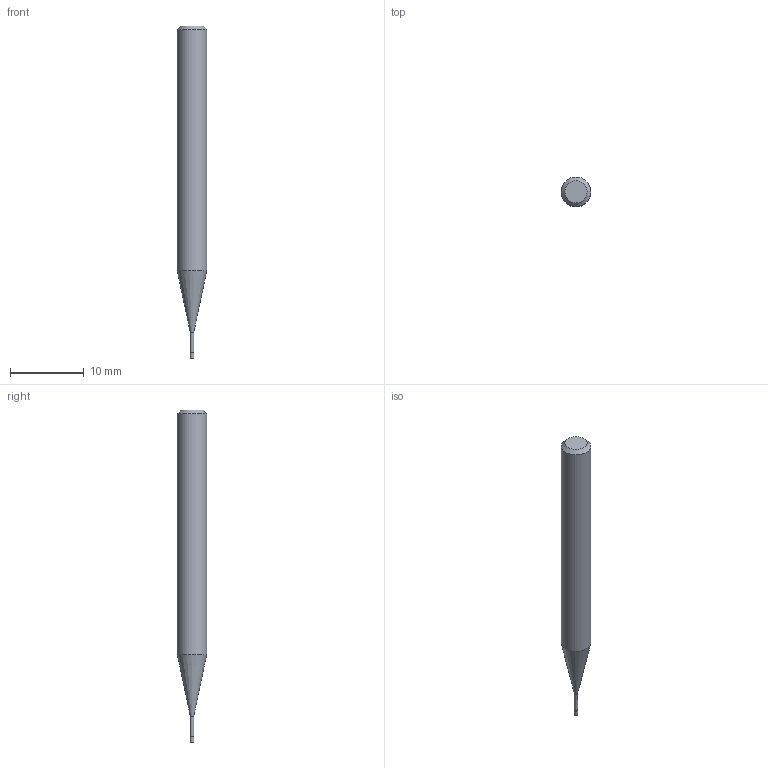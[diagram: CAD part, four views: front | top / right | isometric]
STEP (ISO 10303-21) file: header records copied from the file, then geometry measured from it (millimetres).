
FILE_DESCRIPTION((''),'2;1');
FILE_NAME('C:\Users\nsx150\AppData\Local\Temp\Mastercam 2021\17T8Q8S9EB\TEMP.step','2021-04-21T14:24:24',(''),(''),'STEP Write','Mastercam 2021 ... CNC Software, Inc.','');
FILE_SCHEMA(('AUTOMOTIVE_DESIGN'));
Length unit declared in the file: millimetre
Products named in the file (1): None
Bounding box: 4 x 4 x 45 mm (x, y, z)
Volume: 455.4 mm3; surface area: 490.8 mm2
Topology: 2 solids, 2 shells, 9 faces, 12 edges, 7 vertices
Faces by surface type: plane 4, cylinder 3, cone 2
Full cylindrical faces by diameter (mm): 0.46 x1, 0.5 x1, 4 x1
Entity records: 211 total; most frequent: DIRECTION 36, CARTESIAN_POINT 25, AXIS2_PLACEMENT_3D 18, ORIENTED_EDGE 14, EDGE_LOOP 14, STYLED_ITEM 12, ADVANCED_FACE 9, FACE_BOUND 8
